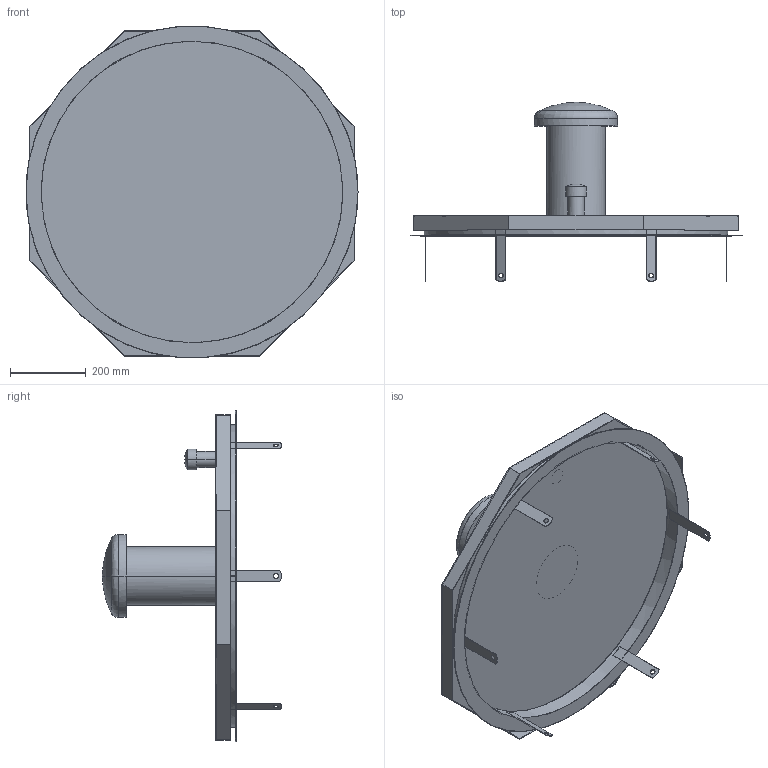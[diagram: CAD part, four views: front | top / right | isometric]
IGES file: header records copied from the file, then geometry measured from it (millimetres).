
Start section:  PTC IGES file: 017_000107.igs
Global section: file name: 017_000107.igs; native system: Creo Parametric by Parametric Technology Corporation; preprocessor: 2017170; author: wj; organization: Unknown; date: 20180906.123746; units: millimetre
Bounding box: 875 x 472 x 873.33 mm (x, y, z)
Surface area: 2080251.4 mm2 (no closed solid volume)
Topology: 0 solids, 0 shells, 92 faces, 488 edges, 484 vertices
Faces by surface type: bspline 54, revolution 38
